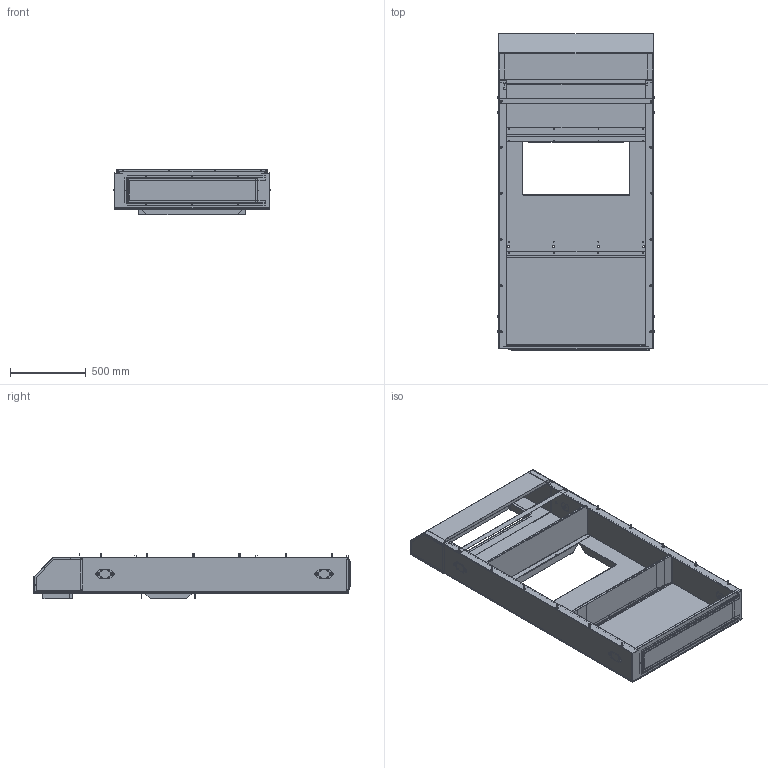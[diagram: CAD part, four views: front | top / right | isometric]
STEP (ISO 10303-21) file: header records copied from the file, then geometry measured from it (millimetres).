
FILE_DESCRIPTION (( 'STEP AP214' ), '1' );
FILE_NAME ('TCURBT2430.STEP', '2017-06-14T20:40:44', ( 'BMC' ), ( 'Bard Manufacturing Co., Inc.' ), 'SwSTEP 2.0', 'SolidWorks 2017', '' );
FILE_SCHEMA (( 'AUTOMOTIVE_DESIGN' ));
Length unit declared in the file: inch
Products named in the file (1): TCURBT2430
Bounding box: 1034.91 x 2090.29 x 298.68 mm (x, y, z)
Volume: 7614367.6 mm3; surface area: 12057553.5 mm2
Topology: 66 solids, 66 shells, 3732 faces, 9045 edges, 5229 vertices
Faces by surface type: plane 1246, cylinder 982, cone 764, bspline 553, torus 171, sphere 16
Entity records: 191893 total; most frequent: CARTESIAN_POINT 58624, ORIENTED_EDGE 17562, DIRECTION 17129, EDGE_CURVE 8781, AXIS2_PLACEMENT_3D 6445, VERTEX_POINT 5229, EDGE_LOOP 4368, VECTOR 4239
